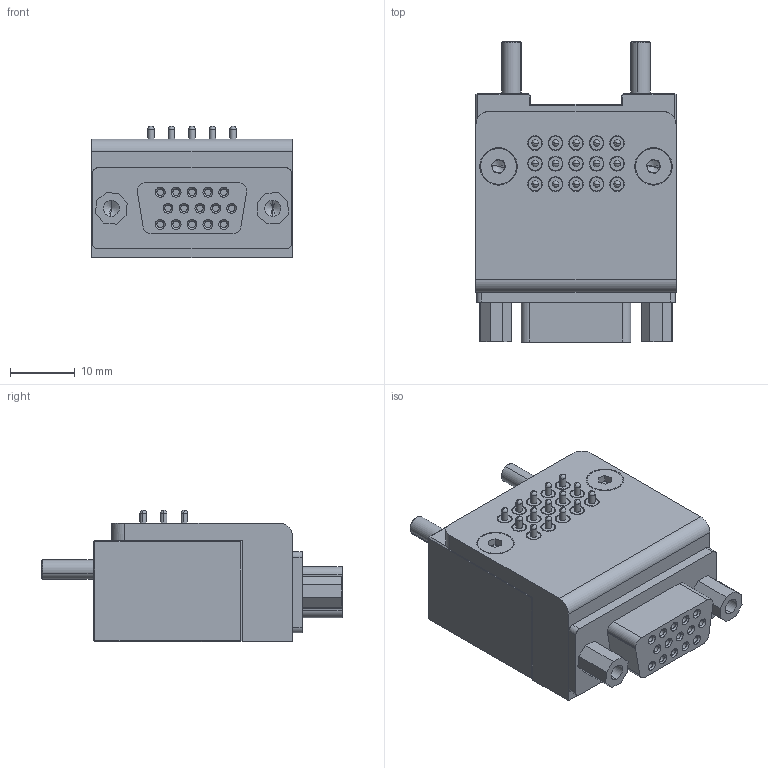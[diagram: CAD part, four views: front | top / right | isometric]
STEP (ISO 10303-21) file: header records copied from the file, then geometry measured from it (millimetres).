
FILE_DESCRIPTION (( 'STEP AP214' ), '1' );
FILE_NAME ('QCSM-15G1.STEP', '2024-11-18T03:41:12', ( '' ), ( '' ), 'SwSTEP 2.0', 'SolidWorks 2022', '' );
FILE_SCHEMA (( 'AUTOMOTIVE_DESIGN' ));
Length unit declared in the file: millimetre
Products named in the file (1): QCSM-15G1
Bounding box: 31 x 46.5 x 20.4 mm (x, y, z)
Volume: 13107.8 mm3; surface area: 9600.4 mm2
Topology: 1 solids, 3 shells, 548 faces, 1367 edges, 844 vertices
Faces by surface type: plane 223, cylinder 195, cone 92, sphere 30, torus 8
Entity records: 16578 total; most frequent: CARTESIAN_POINT 3282, DIRECTION 2882, ORIENTED_EDGE 2590, EDGE_CURVE 1295, AXIS2_PLACEMENT_3D 1110, VERTEX_POINT 814, VECTOR 662, LINE 662
